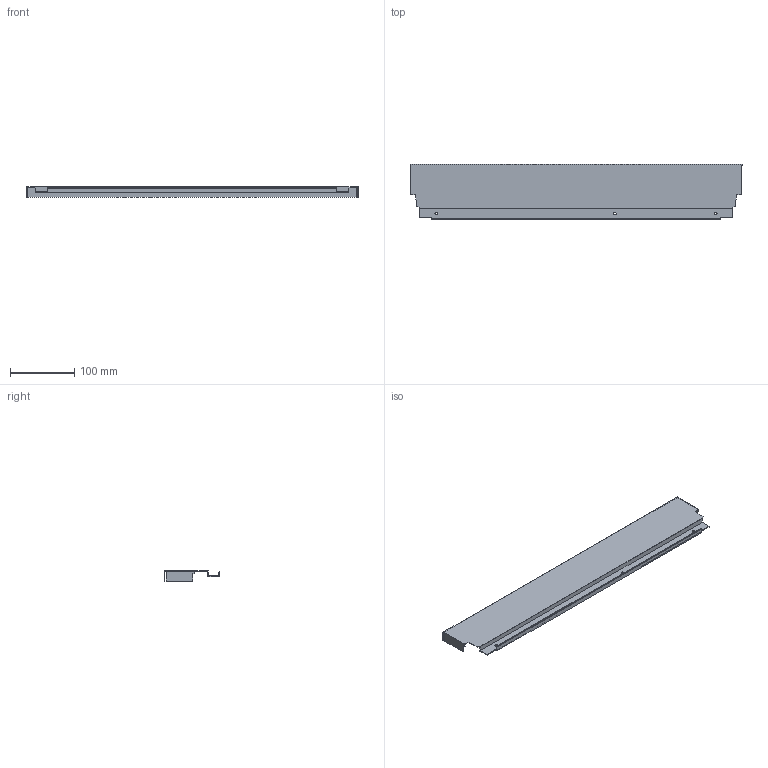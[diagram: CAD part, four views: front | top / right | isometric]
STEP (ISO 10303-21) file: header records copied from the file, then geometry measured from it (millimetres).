
FILE_DESCRIPTION (( 'STEP AP214' ), '1' );
FILE_NAME ('_DWD_XP Stahlrückwand_H86_KAB600_S18.step', '2010-07-08T12:10:21', ( 'grass' ), ( '' ), 'SwSTEP 2.0', 'SolidWorks 2010', '' );
FILE_SCHEMA (( 'AUTOMOTIVE_DESIGN' ));
Length unit declared in the file: millimetre
Products named in the file (1): _DWD_XP Stahlrückwand_H86_KAB600_S18
Bounding box: 515 x 85.79 x 16 mm (x, y, z)
Volume: 54807.7 mm3; surface area: 119502.9 mm2
Topology: 1 solids, 1 shells, 50 faces, 144 edges, 96 vertices
Faces by surface type: plane 44, cylinder 6
Entity records: 1666 total; most frequent: CARTESIAN_POINT 291, ORIENTED_EDGE 288, DIRECTION 258, EDGE_CURVE 144, LINE 132, VECTOR 132, VERTEX_POINT 96, AXIS2_PLACEMENT_3D 63
